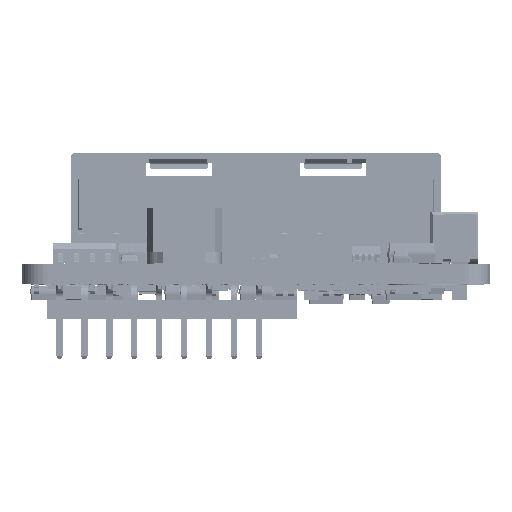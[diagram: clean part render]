
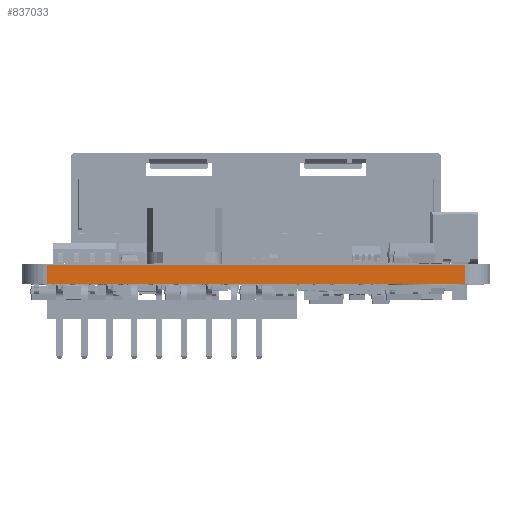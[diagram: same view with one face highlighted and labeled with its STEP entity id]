
A CAD part, left-side view. The second image highlights one B-rep face of the part: STEP entity #837033.
In plain terms, the highlighted planar face has unit normal (-1, 0, 0).
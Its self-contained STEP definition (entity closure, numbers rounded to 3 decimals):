
#51239=PLANE('',#899885);
#93949=FACE_OUTER_BOUND('',#138906,.T.);
#138906=EDGE_LOOP('',(#783957,#783958,#783959,#783960));
#237975=LINE('',#1375119,#337458);
#237977=LINE('',#1375128,#337460);
#237980=LINE('',#1375139,#337463);
#237982=LINE('',#1375142,#337465);
#337458=VECTOR('',#1120534,1.);
#337460=VECTOR('',#1120542,1.);
#337463=VECTOR('',#1120553,1.);
#337465=VECTOR('',#1120557,1.);
#437059=VERTEX_POINT('',#1375116);
#437060=VERTEX_POINT('',#1375118);
#437063=VERTEX_POINT('',#1375125);
#437064=VERTEX_POINT('',#1375127);
#555214=EDGE_CURVE('',#437059,#437060,#237975,.T.);
#555218=EDGE_CURVE('',#437064,#437063,#237977,.T.);
#555224=EDGE_CURVE('',#437060,#437063,#237980,.T.);
#555226=EDGE_CURVE('',#437059,#437064,#237982,.T.);
#783957=ORIENTED_EDGE('',*,*,#555214,.F.);
#783958=ORIENTED_EDGE('',*,*,#555226,.T.);
#783959=ORIENTED_EDGE('',*,*,#555218,.T.);
#783960=ORIENTED_EDGE('',*,*,#555224,.F.);
#837033=ADVANCED_FACE('',(#93949),#51239,.T.);
#899885=AXIS2_PLACEMENT_3D('',#1375141,#1120555,#1120556);
#1120534=DIRECTION('',(0.,-1.,0.));
#1120542=DIRECTION('',(0.,-1.,0.));
#1120553=DIRECTION('',(0.,0.,-1.));
#1120555=DIRECTION('center_axis',(-1.,0.,0.));
#1120556=DIRECTION('ref_axis',(0.,0.,1.));
#1120557=DIRECTION('',(0.,0.,-1.));
#1375116=CARTESIAN_POINT('',(0.,35.5,1.575));
#1375118=CARTESIAN_POINT('',(0.,2.,1.575));
#1375119=CARTESIAN_POINT('',(0.,18.75,1.575));
#1375125=CARTESIAN_POINT('',(0.,2.,0.035));
#1375127=CARTESIAN_POINT('',(0.,35.5,0.035));
#1375128=CARTESIAN_POINT('',(0.,35.5,0.035));
#1375139=CARTESIAN_POINT('',(0.,2.,0.805));
#1375141=CARTESIAN_POINT('Origin',(0.,35.5,0.035));
#1375142=CARTESIAN_POINT('',(0.,35.5,0.805));
